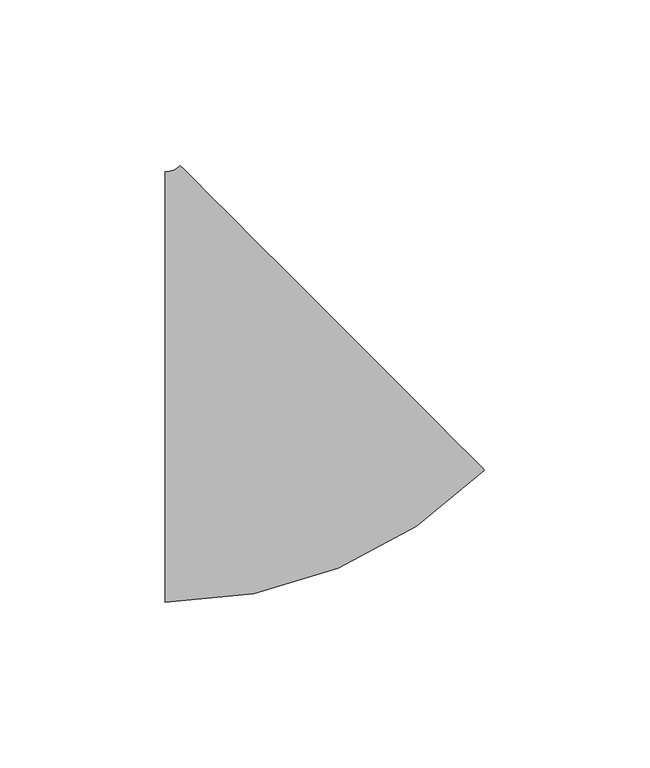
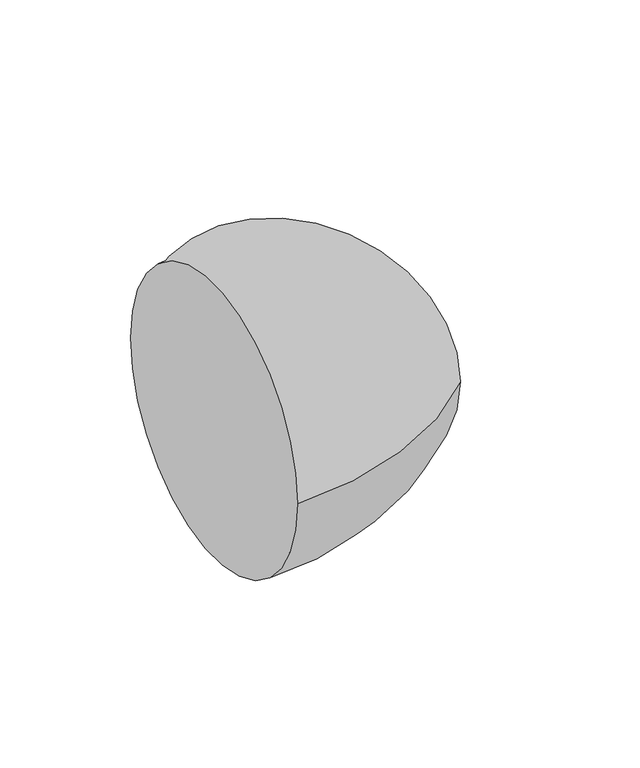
"""IFC4 building model written with IfcOpenShell, lengths in millimetres: pipe fitting geometry, M_Codo - Genérico : Estándar."""

from ifc_helpers import new_model, si_unit, point, frame, origin, place, context, project, spatial, circle_curve, ellipse_curve, trimmed, source, transform, mapped, element, save
from ifc_brep_helpers import plane_surface, revolved_surface, advanced_brep


def pipe_fitting_01416333(model_context):
    return source(origin(), model_context, "Body", "AdvancedBrep", [
        advanced_brep(
        [(-29.5919105, -65.0875, 0.0), (-29.5919105, 65.0875, 0.0), (66.9493703, -25.0967256, 0.0), (-25.1016184, 66.947536, 0.0)],
        [
            (0, 1, circle_curve(frame((-29.5919105, 0.0, 0.0), z_axis=(-1.0, 0.0, 0.0), x_axis=(0.0, 1.0, 0.0)), 65.0875)),
            (1, 0, circle_curve(frame((-29.5919105, 0.0, 0.0), z_axis=(-1.0, 0.0, 0.0), x_axis=(0.0, 1.0, 0.0)), 65.0875)),
            (2, 3, circle_curve(frame((20.923876, 20.9254052, 0.0), z_axis=(0.707080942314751, 0.7071326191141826, 0.0), x_axis=(-0.7071326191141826, 0.707080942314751, 0.0)), 65.0875)),
            (3, 2, circle_curve(frame((20.923876, 20.9254052, 0.0), z_axis=(0.707080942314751, 0.7071326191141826, 0.0), x_axis=(-0.7071326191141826, 0.707080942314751, 0.0)), 65.0875)),
            (3, 1, circle_curve(frame((-29.5919105, 71.4375, 0.0), z_axis=(0.0, 0.0, -1.0), x_axis=(0.0, -1.0, 0.0)), 6.35)),
            (0, 2, circle_curve(frame((-29.5919105, 71.4375, 0.0), z_axis=(0.0, 0.0, 1.0), x_axis=(0.0, -1.0, 0.0)), 136.525)),
        ],
        [
            plane_surface(frame((-29.5919105, 0.0, 0.0), z_axis=(-1.0, 0.0, 0.0), x_axis=(0.0, 0.0, 1.0))),
            plane_surface(frame((20.923876, 20.9254052, 0.0), z_axis=(0.707080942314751, 0.7071326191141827, 0.0), x_axis=(0.0, 0.0, 1.0))),
            revolved_surface(trimmed(ellipse_curve(frame((-29.5919105, 0.0, 0.0), z_axis=(-1.0, 0.0, 0.0), x_axis=(0.0, 1.0, 0.0)), 65.0875, 65.0875), [point((-29.5919105, -65.0875, 0.0))], [point((-29.5919105, 65.0875, 0.0))], True, "CARTESIAN"), (-29.5919105, 71.4375, 0.0), (0.0, 0.0, 1.0)),
            revolved_surface(trimmed(ellipse_curve(frame((-29.5919105, 0.0, 0.0), z_axis=(-1.0, 0.0, 0.0), x_axis=(0.0, 1.0, 0.0)), 65.0875, 65.0875), [point((-29.5919105, 65.0875, 0.0))], [point((-29.5919105, -65.0875, 0.0))], True, "CARTESIAN"), (-29.5919105, 71.4375, 0.0), (0.0, 0.0, 1.0)),
        ],
        [
            (0, [[1, 2]]),
            (1, [[3, 4]]),
            (2, [[5, -1, 6, -4]]),
            (3, [[-6, -2, -5, -3]]),
        ],
    ),
    ])


if __name__ == "__main__":
    model = new_model("IFC4")
    model_context = context("Model", 3, world=origin())
    ifc_project = project(units=[si_unit("LENGTHUNIT", "METRE", prefix="MILLI")], contexts=[model_context])
    site = spatial("IfcSite", under=ifc_project)
    building = spatial("IfcBuilding", under=site)
    placement = place(None, origin())
    pipe_fitting_shape = pipe_fitting_01416333(model_context)
    element("IfcPipeFitting", 1, ObjectType="M_Codo - Genérico : Estándar", at=placement, inside=building, context=model_context, shape_type="MappedRepresentation", body=[
        mapped(pipe_fitting_shape, transform((0.0, 0.0, 0.0), x_axis=(1.0, 0.0, 0.0), y_axis=(0.0, 1.0, 0.0), z_axis=(0.0, 0.0, 1.0))),
    ])
    save(model, "model.ifc")
